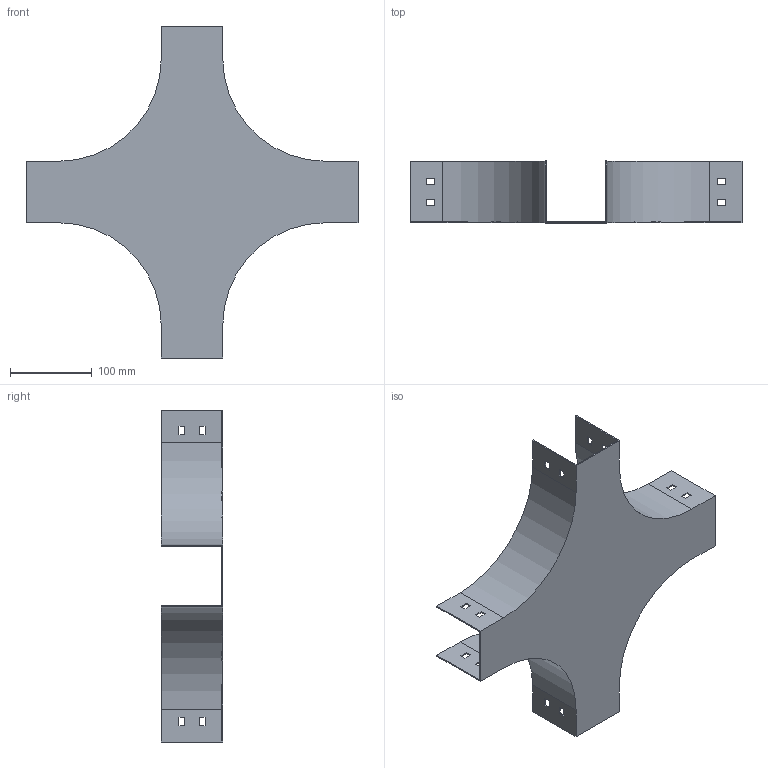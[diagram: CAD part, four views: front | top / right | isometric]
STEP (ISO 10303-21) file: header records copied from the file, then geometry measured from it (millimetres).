
FILE_DESCRIPTION (( 'STEP AP214' ), '1' );
FILE_NAME ('PC_077.step', '2025-07-16T09:21:34', ( '' ), ( '' ), 'SwSTEP 2.0', 'SolidWorks 2023', '' );
FILE_SCHEMA (( 'AUTOMOTIVE_DESIGN' ));
Length unit declared in the file: millimetre
Products named in the file (1): PC_077
Bounding box: 405 x 75 x 405 mm (x, y, z)
Volume: 223516.1 mm3; surface area: 301827.6 mm2
Topology: 1 solids, 1 shells, 98 faces, 288 edges, 192 vertices
Faces by surface type: plane 90, cylinder 8
Entity records: 3295 total; most frequent: CARTESIAN_POINT 579, ORIENTED_EDGE 576, DIRECTION 502, EDGE_CURVE 288, VECTOR 272, LINE 272, VERTEX_POINT 192, EDGE_LOOP 130
